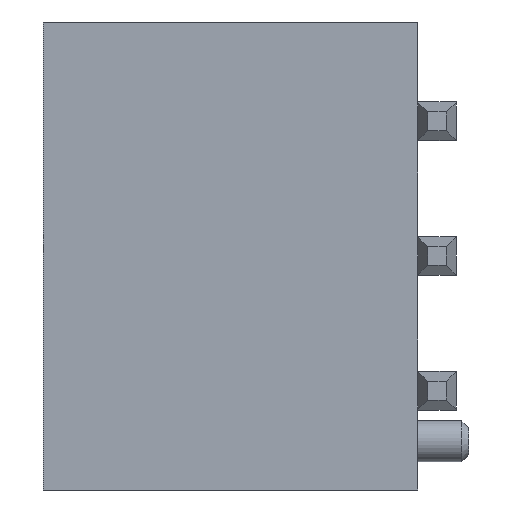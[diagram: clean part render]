
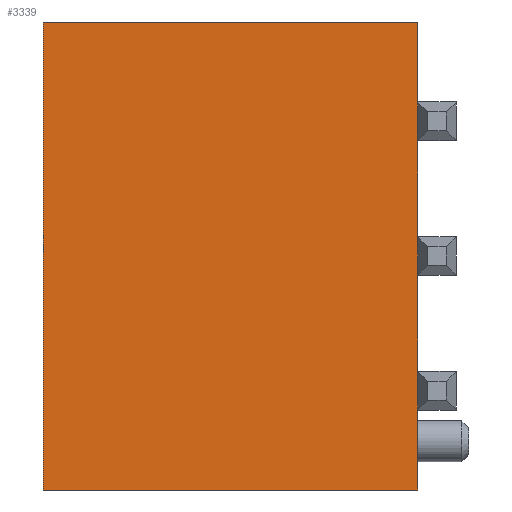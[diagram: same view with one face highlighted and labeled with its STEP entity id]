
A CAD part, left-side view. The second image highlights one B-rep face of the part: STEP entity #3339.
In plain terms, the highlighted planar face has unit normal (-1, 0, 0).
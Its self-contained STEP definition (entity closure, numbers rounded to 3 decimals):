
#140 = CARTESIAN_POINT ( 'NONE',  ( -3.7, -2.861, 12.82 ) ) ;
#153 = LINE ( 'NONE', #4549, #849 ) ;
#179 = CARTESIAN_POINT ( 'NONE',  ( -3.7, 8.139, -12.82 ) ) ;
#289 = LINE ( 'NONE', #2683, #3517 ) ;
#305 = ORIENTED_EDGE ( 'NONE', *, *, #1221, .F. ) ;
#384 = CARTESIAN_POINT ( 'NONE',  ( -3.7, -2.861, 12.82 ) ) ;
#396 = DIRECTION ( 'NONE',  ( 0., 0., -1. ) ) ;
#458 = LINE ( 'NONE', #4190, #1905 ) ;
#495 = ORIENTED_EDGE ( 'NONE', *, *, #5123, .T. ) ;
#537 = VERTEX_POINT ( 'NONE', #1377 ) ;
#564 = CARTESIAN_POINT ( 'NONE',  ( -3.7, -2.861, -12.82 ) ) ;
#615 = VERTEX_POINT ( 'NONE', #4129 ) ;
#672 = VECTOR ( 'NONE', #675, 1000. ) ;
#675 = DIRECTION ( 'NONE',  ( 0., 0., 1. ) ) ;
#832 = LINE ( 'NONE', #1200, #1275 ) ;
#849 = VECTOR ( 'NONE', #2528, 1000. ) ;
#853 = VECTOR ( 'NONE', #980, 1000. ) ;
#980 = DIRECTION ( 'NONE',  ( 0., 0., -1. ) ) ;
#991 = CARTESIAN_POINT ( 'NONE',  ( -3.7, -2.861, 12.82 ) ) ;
#1000 = ORIENTED_EDGE ( 'NONE', *, *, #1176, .F. ) ;
#1027 = ORIENTED_EDGE ( 'NONE', *, *, #4165, .T. ) ;
#1030 = DIRECTION ( 'NONE',  ( 1., 0., 0. ) ) ;
#1077 = VECTOR ( 'NONE', #2259, 1000. ) ;
#1128 = PLANE ( 'NONE',  #2293 ) ;
#1176 = EDGE_CURVE ( 'NONE', #1408, #3506, #289, .T. ) ;
#1186 = DIRECTION ( 'NONE',  ( 0., 0., -1. ) ) ;
#1200 = CARTESIAN_POINT ( 'NONE',  ( -3.7, -2.861, 12.82 ) ) ;
#1221 = EDGE_CURVE ( 'NONE', #4670, #4697, #832, .T. ) ;
#1275 = VECTOR ( 'NONE', #396, 1000. ) ;
#1377 = CARTESIAN_POINT ( 'NONE',  ( -3.7, -2.861, -5.37 ) ) ;
#1408 = VERTEX_POINT ( 'NONE', #1411 ) ;
#1411 = CARTESIAN_POINT ( 'NONE',  ( -3.7, 8.139, 0.94 ) ) ;
#1483 = CARTESIAN_POINT ( 'NONE',  ( -3.7, 8.139, -12.82 ) ) ;
#1502 = DIRECTION ( 'NONE',  ( 0., -1., 0. ) ) ;
#1654 = ORIENTED_EDGE ( 'NONE', *, *, #2907, .F. ) ;
#1700 = VERTEX_POINT ( 'NONE', #2830 ) ;
#1905 = VECTOR ( 'NONE', #4137, 1000. ) ;
#1932 = EDGE_CURVE ( 'NONE', #2612, #3189, #3482, .T. ) ;
#1937 = CARTESIAN_POINT ( 'NONE',  ( -3.7, 8.139, 12.82 ) ) ;
#2044 = ORIENTED_EDGE ( 'NONE', *, *, #2558, .T. ) ;
#2089 = ORIENTED_EDGE ( 'NONE', *, *, #2165, .F. ) ;
#2115 = EDGE_CURVE ( 'NONE', #1700, #537, #3948, .T. ) ;
#2165 = EDGE_CURVE ( 'NONE', #3506, #615, #4433, .T. ) ;
#2186 = VECTOR ( 'NONE', #1502, 1000. ) ;
#2259 = DIRECTION ( 'NONE',  ( 0., 0., -1. ) ) ;
#2293 = AXIS2_PLACEMENT_3D ( 'NONE', #1937, #1030, #4272 ) ;
#2417 = EDGE_LOOP ( 'NONE', ( #2089, #1000, #4199, #4006, #1654, #2044, #305, #495, #2874, #1027 ) ) ;
#2528 = DIRECTION ( 'NONE',  ( 0., 0., 1. ) ) ;
#2558 = EDGE_CURVE ( 'NONE', #3876, #4697, #458, .T. ) ;
#2612 = VERTEX_POINT ( 'NONE', #179 ) ;
#2683 = CARTESIAN_POINT ( 'NONE',  ( -3.7, 8.139, 0.94 ) ) ;
#2695 = EDGE_CURVE ( 'NONE', #1408, #2612, #2905, .T. ) ;
#2776 = CARTESIAN_POINT ( 'NONE',  ( -3.7, -2.861, -6.51 ) ) ;
#2786 = DIRECTION ( 'NONE',  ( 0., 0., -1. ) ) ;
#2830 = CARTESIAN_POINT ( 'NONE',  ( -3.7, -2.861, -2.55 ) ) ;
#2874 = ORIENTED_EDGE ( 'NONE', *, *, #2115, .F. ) ;
#2880 = CARTESIAN_POINT ( 'NONE',  ( -3.7, -2.861, -9.33 ) ) ;
#2905 = LINE ( 'NONE', #3202, #4720 ) ;
#2907 = EDGE_CURVE ( 'NONE', #3876, #3189, #3056, .T. ) ;
#3056 = LINE ( 'NONE', #3135, #1077 ) ;
#3135 = CARTESIAN_POINT ( 'NONE',  ( -3.7, -2.861, 12.82 ) ) ;
#3189 = VERTEX_POINT ( 'NONE', #564 ) ;
#3202 = CARTESIAN_POINT ( 'NONE',  ( -3.7, 8.139, 12.82 ) ) ;
#3339 = ADVANCED_FACE ( 'NONE', ( #3427 ), #1128, .F. ) ;
#3427 = FACE_OUTER_BOUND ( 'NONE', #2417, .T. ) ;
#3482 = LINE ( 'NONE', #1483, #2186 ) ;
#3506 = VERTEX_POINT ( 'NONE', #4735 ) ;
#3517 = VECTOR ( 'NONE', #3883, 1000. ) ;
#3876 = VERTEX_POINT ( 'NONE', #3983 ) ;
#3883 = DIRECTION ( 'NONE',  ( 0., -1., 0. ) ) ;
#3948 = LINE ( 'NONE', #384, #4585 ) ;
#3983 = CARTESIAN_POINT ( 'NONE',  ( -3.7, -2.861, -10.47 ) ) ;
#4006 = ORIENTED_EDGE ( 'NONE', *, *, #1932, .T. ) ;
#4129 = CARTESIAN_POINT ( 'NONE',  ( -3.7, -2.861, -1.41 ) ) ;
#4137 = DIRECTION ( 'NONE',  ( 0., 0., 1. ) ) ;
#4165 = EDGE_CURVE ( 'NONE', #1700, #615, #4575, .T. ) ;
#4190 = CARTESIAN_POINT ( 'NONE',  ( -3.7, -2.861, 12.82 ) ) ;
#4199 = ORIENTED_EDGE ( 'NONE', *, *, #2695, .T. ) ;
#4272 = DIRECTION ( 'NONE',  ( 0., 1., 0. ) ) ;
#4433 = LINE ( 'NONE', #140, #853 ) ;
#4549 = CARTESIAN_POINT ( 'NONE',  ( -3.7, -2.861, 12.82 ) ) ;
#4575 = LINE ( 'NONE', #991, #672 ) ;
#4585 = VECTOR ( 'NONE', #1186, 1000. ) ;
#4670 = VERTEX_POINT ( 'NONE', #2776 ) ;
#4697 = VERTEX_POINT ( 'NONE', #2880 ) ;
#4720 = VECTOR ( 'NONE', #2786, 1000. ) ;
#4735 = CARTESIAN_POINT ( 'NONE',  ( -3.7, -2.861, 0.94 ) ) ;
#5123 = EDGE_CURVE ( 'NONE', #4670, #537, #153, .T. ) ;
